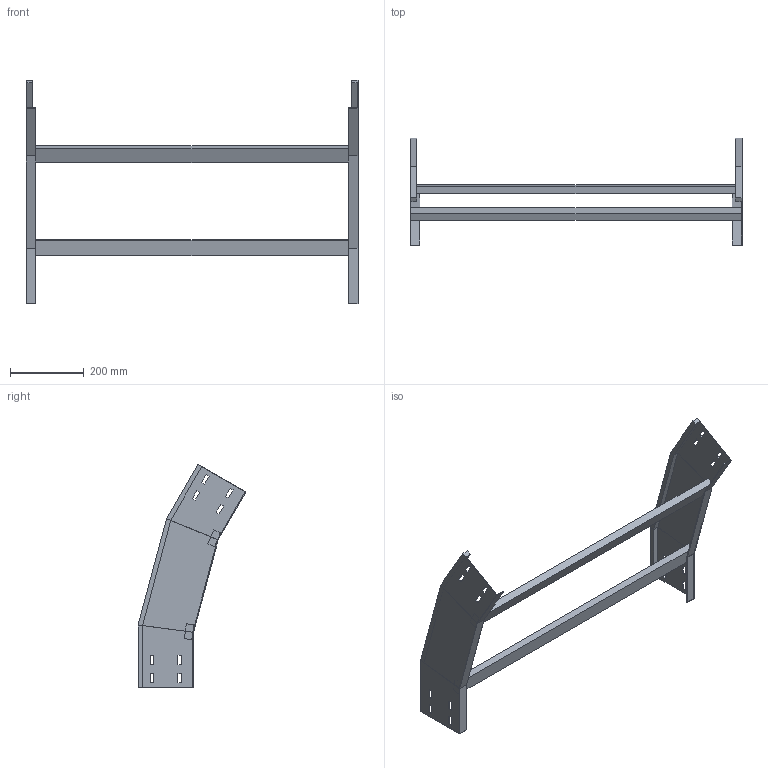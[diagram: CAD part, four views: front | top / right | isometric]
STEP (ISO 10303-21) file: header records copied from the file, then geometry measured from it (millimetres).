
FILE_DESCRIPTION (( 'STEP AP214' ), '1' );
FILE_NAME ('35J5F900.step', '2025-02-21T16:21:51', ( '' ), ( '' ), 'SwSTEP 2.0', 'SolidWorks 2023', '' );
FILE_SCHEMA (( 'AUTOMOTIVE_DESIGN' ));
Length unit declared in the file: millimetre
Products named in the file (3): LONGH.DISCESA_30°_H150_R500; TRAVERSINO_900; 35J5F900
Assembly tree (4 placements, depth 2):
  35J5F900
    LONGH.DISCESA_30°_H150_R500  x2
    TRAVERSINO_900  x2
Bounding box: 900 x 292.03 x 605.08 mm (x, y, z)
Volume: 2103145.5 mm3; surface area: 677683.3 mm2
Topology: 4 solids, 4 shells, 128 faces, 328 edges, 208 vertices
Faces by surface type: plane 128
Entity records: 2016 total; most frequent: CARTESIAN_POINT 339, ORIENTED_EDGE 328, DIRECTION 306, LINE 164, EDGE_CURVE 164, VECTOR 164, VERTEX_POINT 104, EDGE_LOOP 80
